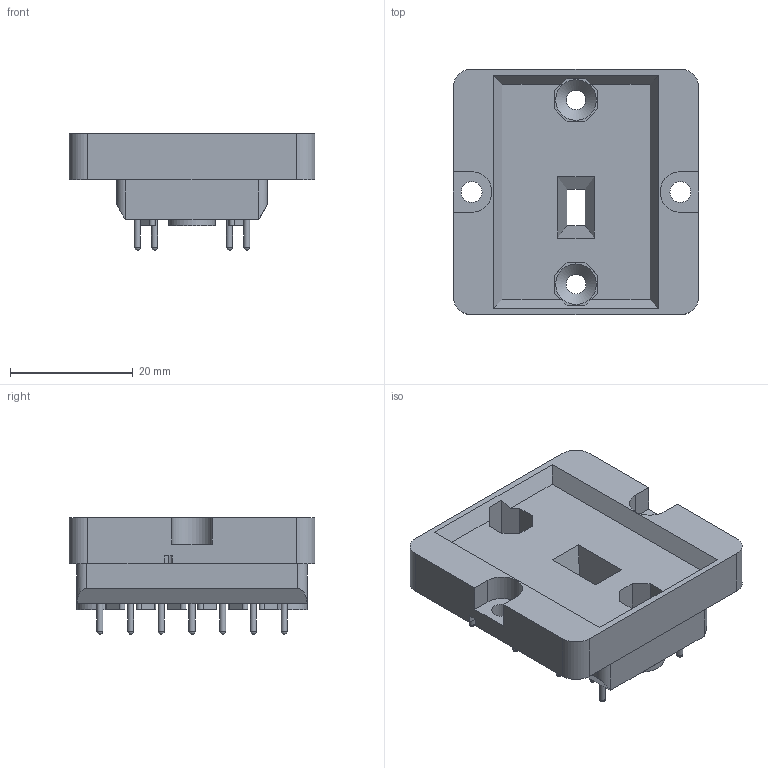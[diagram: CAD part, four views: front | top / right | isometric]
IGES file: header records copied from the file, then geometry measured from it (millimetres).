
Global section: file name: No Iges File Name specified; native system: Autodesk Inventor 2012; preprocessor: AutoDesk Inventor Iges Exporter R2012; author: oey; date: 20110617.113006; units: millimetre
Bounding box: 40 x 40 x 19 mm (x, y, z)
Volume: 12928.6 mm3; surface area: 7366.9 mm2
Topology: 1 solids, 1 shells, 224 faces, 598 edges, 396 vertices
Faces by surface type: plane 128, cylinder 52, revolution 30, sphere 14
Full cylindrical faces by diameter (mm): 1 x14, 7.5 x2
